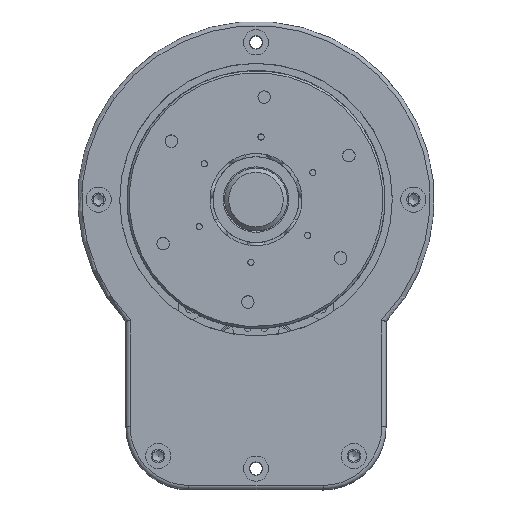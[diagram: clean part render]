
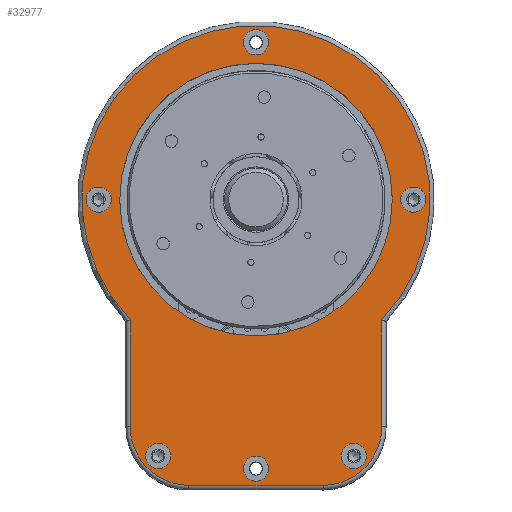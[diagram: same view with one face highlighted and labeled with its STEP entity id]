
A CAD part, top view. The second image highlights one B-rep face of the part: STEP entity #32977.
In plain terms, the highlighted planar face has unit normal (0, 0, 1).
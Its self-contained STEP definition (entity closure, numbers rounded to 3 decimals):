
#1154=FACE_BOUND('',#9584,.T.);
#1155=FACE_BOUND('',#9585,.T.);
#1156=FACE_BOUND('',#9586,.T.);
#1157=FACE_BOUND('',#9587,.T.);
#1158=FACE_BOUND('',#9588,.T.);
#1159=FACE_BOUND('',#9589,.T.);
#1160=FACE_BOUND('',#9590,.T.);
#4280=CIRCLE('',#38669,41.5);
#4282=CIRCLE('',#38672,14.);
#4286=CIRCLE('',#38678,14.);
#4289=CIRCLE('',#38686,32.5);
#4290=CIRCLE('',#38687,3.);
#4291=CIRCLE('',#38688,3.);
#4292=CIRCLE('',#38689,3.);
#4293=CIRCLE('',#38690,3.);
#4294=CIRCLE('',#38691,3.);
#4295=CIRCLE('',#38692,3.);
#7362=FACE_OUTER_BOUND('',#9583,.T.);
#9583=EDGE_LOOP('',(#30352,#30353,#30354,#30355,#30356,#30357));
#9584=EDGE_LOOP('',(#30358));
#9585=EDGE_LOOP('',(#30359));
#9586=EDGE_LOOP('',(#30360));
#9587=EDGE_LOOP('',(#30361));
#9588=EDGE_LOOP('',(#30362));
#9589=EDGE_LOOP('',(#30363));
#9590=EDGE_LOOP('',(#30364));
#11262=LINE('',#67969,#12772);
#11263=LINE('',#68013,#12773);
#11265=LINE('',#68022,#12775);
#12772=VECTOR('',#50501,10.);
#12773=VECTOR('',#50520,10.);
#12775=VECTOR('',#50532,10.);
#15722=VERTEX_POINT('',#67966);
#15723=VERTEX_POINT('',#67968);
#15725=VERTEX_POINT('',#67987);
#15727=VERTEX_POINT('',#68005);
#15729=VERTEX_POINT('',#68011);
#15731=VERTEX_POINT('',#68017);
#15736=VERTEX_POINT('',#68039);
#15737=VERTEX_POINT('',#68041);
#15738=VERTEX_POINT('',#68043);
#15739=VERTEX_POINT('',#68045);
#15740=VERTEX_POINT('',#68047);
#15741=VERTEX_POINT('',#68049);
#15742=VERTEX_POINT('',#68051);
#20596=EDGE_CURVE('',#15722,#15723,#11262,.T.);
#20599=EDGE_CURVE('',#15723,#15725,#4280,.T.);
#20602=EDGE_CURVE('',#15727,#15722,#4282,.T.);
#20605=EDGE_CURVE('',#15729,#15727,#11263,.T.);
#20608=EDGE_CURVE('',#15731,#15729,#4286,.T.);
#20610=EDGE_CURVE('',#15725,#15731,#11265,.T.);
#20619=EDGE_CURVE('',#15736,#15736,#4289,.T.);
#20620=EDGE_CURVE('',#15737,#15737,#4290,.T.);
#20621=EDGE_CURVE('',#15738,#15738,#4291,.T.);
#20622=EDGE_CURVE('',#15739,#15739,#4292,.T.);
#20623=EDGE_CURVE('',#15740,#15740,#4293,.T.);
#20624=EDGE_CURVE('',#15741,#15741,#4294,.T.);
#20625=EDGE_CURVE('',#15742,#15742,#4295,.T.);
#30352=ORIENTED_EDGE('',*,*,#20596,.F.);
#30353=ORIENTED_EDGE('',*,*,#20602,.F.);
#30354=ORIENTED_EDGE('',*,*,#20605,.F.);
#30355=ORIENTED_EDGE('',*,*,#20608,.F.);
#30356=ORIENTED_EDGE('',*,*,#20610,.F.);
#30357=ORIENTED_EDGE('',*,*,#20599,.F.);
#30358=ORIENTED_EDGE('',*,*,#20619,.T.);
#30359=ORIENTED_EDGE('',*,*,#20620,.T.);
#30360=ORIENTED_EDGE('',*,*,#20621,.T.);
#30361=ORIENTED_EDGE('',*,*,#20622,.T.);
#30362=ORIENTED_EDGE('',*,*,#20623,.T.);
#30363=ORIENTED_EDGE('',*,*,#20624,.T.);
#30364=ORIENTED_EDGE('',*,*,#20625,.T.);
#30817=PLANE('',#38685);
#32977=ADVANCED_FACE('',(#7362,#1154,#1155,#1156,#1157,#1158,#1159,#1160),
#30817,.T.);
#38669=AXIS2_PLACEMENT_3D('',#67988,#50506,#50507);
#38672=AXIS2_PLACEMENT_3D('',#68007,#50512,#50513);
#38678=AXIS2_PLACEMENT_3D('',#68019,#50526,#50527);
#38685=AXIS2_PLACEMENT_3D('',#68038,#50548,#50549);
#38686=AXIS2_PLACEMENT_3D('',#68040,#50550,#50551);
#38687=AXIS2_PLACEMENT_3D('',#68042,#50552,#50553);
#38688=AXIS2_PLACEMENT_3D('',#68044,#50554,#50555);
#38689=AXIS2_PLACEMENT_3D('',#68046,#50556,#50557);
#38690=AXIS2_PLACEMENT_3D('',#68048,#50558,#50559);
#38691=AXIS2_PLACEMENT_3D('',#68050,#50560,#50561);
#38692=AXIS2_PLACEMENT_3D('',#68052,#50562,#50563);
#50501=DIRECTION('',(0.,-1.,0.));
#50506=DIRECTION('center_axis',(0.,0.,-1.));
#50507=DIRECTION('ref_axis',(0.,-1.,0.));
#50512=DIRECTION('center_axis',(0.,0.,-1.));
#50513=DIRECTION('ref_axis',(0.707,0.707,0.));
#50520=DIRECTION('',(1.,0.,0.));
#50526=DIRECTION('center_axis',(0.,0.,-1.));
#50527=DIRECTION('ref_axis',(-0.707,0.707,0.));
#50532=DIRECTION('',(0.,1.,0.));
#50548=DIRECTION('center_axis',(0.,0.,1.));
#50549=DIRECTION('ref_axis',(1.,0.,0.));
#50550=DIRECTION('center_axis',(0.,0.,-1.));
#50551=DIRECTION('ref_axis',(0.646,-0.763,0.));
#50552=DIRECTION('center_axis',(0.,0.,-1.));
#50553=DIRECTION('ref_axis',(1.,0.,0.));
#50554=DIRECTION('center_axis',(0.,0.,-1.));
#50555=DIRECTION('ref_axis',(1.,0.,0.));
#50556=DIRECTION('center_axis',(0.,0.,-1.));
#50557=DIRECTION('ref_axis',(1.,0.,0.));
#50558=DIRECTION('center_axis',(0.,0.,-1.));
#50559=DIRECTION('ref_axis',(1.,0.,0.));
#50560=DIRECTION('center_axis',(0.,0.,-1.));
#50561=DIRECTION('ref_axis',(1.,0.,0.));
#50562=DIRECTION('center_axis',(0.,0.,-1.));
#50563=DIRECTION('ref_axis',(1.,0.,0.));
#67966=CARTESIAN_POINT('',(30.,37.362,15.));
#67968=CARTESIAN_POINT('',(30.,11.918,15.));
#67969=CARTESIAN_POINT('',(30.,4.435,15.));
#67987=CARTESIAN_POINT('',(-30.,11.918,15.));
#67988=CARTESIAN_POINT('Origin',(0.,-16.757,
15.));
#68005=CARTESIAN_POINT('',(16.,51.362,15.));
#68007=CARTESIAN_POINT('Origin',(16.,37.362,15.));
#68011=CARTESIAN_POINT('',(-16.,51.362,15.));
#68013=CARTESIAN_POINT('',(8.,51.362,15.));
#68017=CARTESIAN_POINT('',(-30.,37.362,15.));
#68019=CARTESIAN_POINT('Origin',(-16.,37.362,15.));
#68022=CARTESIAN_POINT('',(-30.,16.958,15.));
#68038=CARTESIAN_POINT('Origin',(0.,-3.447,
15.));
#68039=CARTESIAN_POINT('',(-21.,8.048,15.));
#68040=CARTESIAN_POINT('Origin',(0.,-16.757,
15.));
#68041=CARTESIAN_POINT('',(-3.,-54.257,15.));
#68042=CARTESIAN_POINT('Origin',(0.,-54.257,
15.));
#68043=CARTESIAN_POINT('',(-40.5,-16.757,15.));
#68044=CARTESIAN_POINT('Origin',(-37.5,-16.757,15.));
#68045=CARTESIAN_POINT('',(-26.33,44.362,15.));
#68046=CARTESIAN_POINT('Origin',(-23.33,44.362,15.));
#68047=CARTESIAN_POINT('',(-3.,47.362,15.));
#68048=CARTESIAN_POINT('Origin',(0.,47.362,15.));
#68049=CARTESIAN_POINT('',(20.33,44.362,15.));
#68050=CARTESIAN_POINT('Origin',(23.33,44.362,15.));
#68051=CARTESIAN_POINT('',(34.5,-16.757,15.));
#68052=CARTESIAN_POINT('Origin',(37.5,-16.757,15.));
